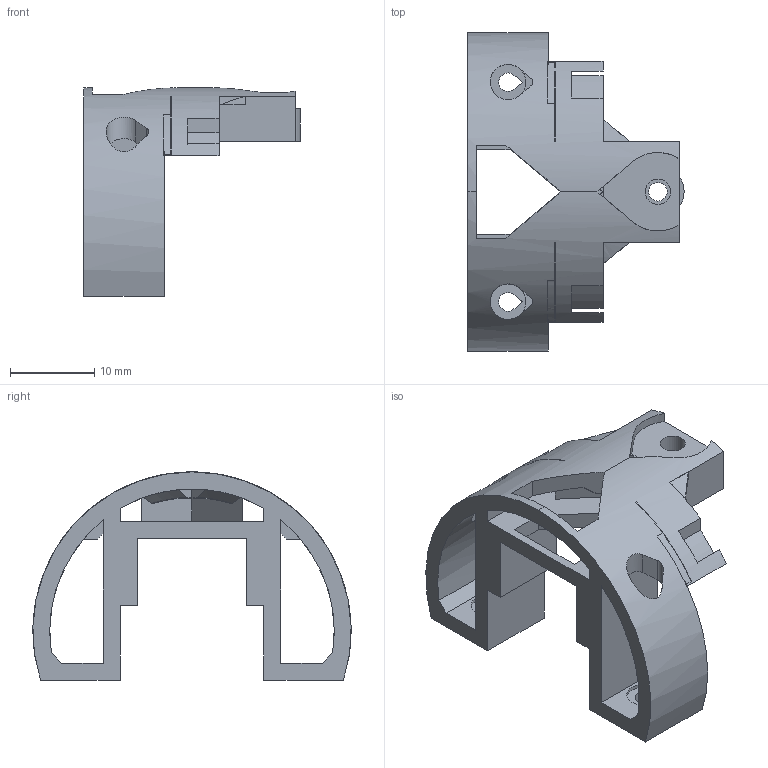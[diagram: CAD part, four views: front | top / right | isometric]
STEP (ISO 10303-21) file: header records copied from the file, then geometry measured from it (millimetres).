
FILE_DESCRIPTION(('SkyG Speed 90B - revision C6B-24 - 2026-10-17','HL1-hatch-lip-front'),'2;1');
FILE_NAME('HL1-hatch-lip-front_C6B-24','2026-10-17T20:03:06',('Author'),( 'Open CASCADE'),'Open CASCADE STEP processor 7.9','Open CASCADE 7.9' ,'Unknown');
FILE_SCHEMA(('AUTOMOTIVE_DESIGN { 1 0 10303 214 1 1 1 1 }'));
Length unit declared in the file: millimetre
Products named in the file (5): HL1-hatch-lip-front C6B-24; Open CASCADE STEP translator 7.9 25.1; Open CASCADE STEP translator 7.9 25.1.1; Open CASCADE STEP translator 7.9 25.1.2; Open CASCADE STEP translator 7.9 25.1.3
Assembly tree (4 placements, depth 3):
  HL1-hatch-lip-front C6B-24
    Open CASCADE STEP translator 7.9 25.1
      Open CASCADE STEP translator 7.9 25.1.1
      Open CASCADE STEP translator 7.9 25.1.2
      Open CASCADE STEP translator 7.9 25.1.3
Bounding box: 25.6 x 37.7 x 24.65 mm (x, y, z)
Volume: 3924.8 mm3; surface area: 4125.9 mm2
Topology: 1 solids, 3 shells, 117 faces, 369 edges, 252 vertices
Faces by surface type: plane 78, cylinder 37, cone 2
Full cylindrical faces by diameter (mm): 2.2 x1, 3 x1, 4.2 x2
Entity records: 10835 total; most frequent: CARTESIAN_POINT 3902, DIRECTION 1195, ORIENTED_EDGE 716, PCURVE 714, DEFINITIONAL_REPRESENTATION 714, LINE 629, VECTOR 629, EDGE_CURVE 369
